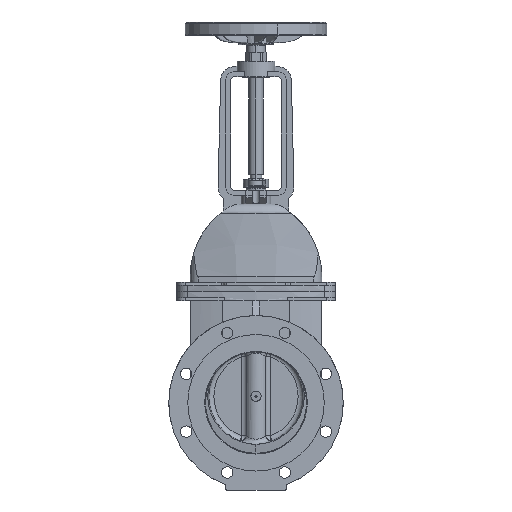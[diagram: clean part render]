
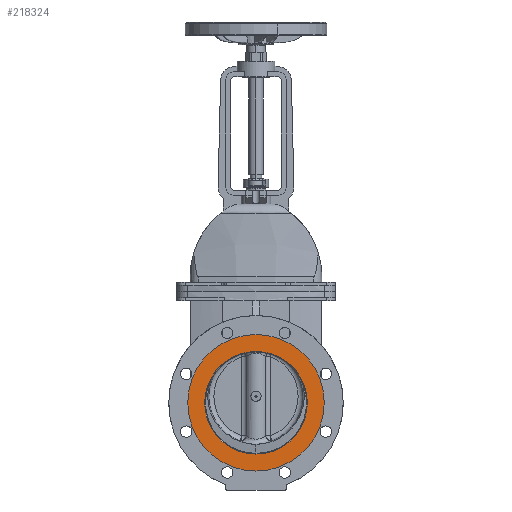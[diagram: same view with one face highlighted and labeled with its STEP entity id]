
A CAD part, left-side view. The second image highlights one B-rep face of the part: STEP entity #218324.
In plain terms, the highlighted planar face has unit normal (-1, 0, 0).
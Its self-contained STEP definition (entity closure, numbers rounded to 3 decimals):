
#198415 = CYLINDRICAL_SURFACE('',#198416,101.5);
#198416 = AXIS2_PLACEMENT_3D('',#198417,#198418,#198419);
#198417 = CARTESIAN_POINT('',(1637.564,28.548,
    -150.348));
#198418 = DIRECTION('',(-1.,0.,0.));
#198419 = DIRECTION('',(0.,0.,1.));
#200163 = VERTEX_POINT('',#200164);
#200164 = CARTESIAN_POINT('',(1622.564,28.548,
    -48.848));
#200178 = CYLINDRICAL_SURFACE('',#200179,101.5);
#200179 = AXIS2_PLACEMENT_3D('',#200180,#200181,#200182);
#200180 = CARTESIAN_POINT('',(1637.564,28.548,
    -150.348));
#200181 = DIRECTION('',(-1.,0.,0.));
#200182 = DIRECTION('',(0.,0.,1.));
#200190 = EDGE_CURVE('',#200191,#200163,#200193,.T.);
#200191 = VERTEX_POINT('',#200192);
#200192 = CARTESIAN_POINT('',(1622.564,28.548,
    -251.848));
#200193 = SURFACE_CURVE('',#200194,(#200199,#200206),.PCURVE_S1.);
#200194 = CIRCLE('',#200195,101.5);
#200195 = AXIS2_PLACEMENT_3D('',#200196,#200197,#200198);
#200196 = CARTESIAN_POINT('',(1622.564,28.548,
    -150.348));
#200197 = DIRECTION('',(-1.,0.,0.));
#200198 = DIRECTION('',(0.,0.,1.));
#200199 = PCURVE('',#198415,#200200);
#200200 = DEFINITIONAL_REPRESENTATION('',(#200201),#200205);
#200201 = LINE('',#200202,#200203);
#200202 = CARTESIAN_POINT('',(0.,15.));
#200203 = VECTOR('',#200204,1.);
#200204 = DIRECTION('',(1.,0.));
#200205 = ( GEOMETRIC_REPRESENTATION_CONTEXT(2) 
PARAMETRIC_REPRESENTATION_CONTEXT() REPRESENTATION_CONTEXT('2D SPACE',''
  ) );
#200206 = PCURVE('',#200207,#200212);
#200207 = PLANE('',#200208);
#200208 = AXIS2_PLACEMENT_3D('',#200209,#200210,#200211);
#200209 = CARTESIAN_POINT('',(1622.564,28.548,
    -150.348));
#200210 = DIRECTION('',(1.,0.,0.));
#200211 = DIRECTION('',(0.,0.,-1.));
#200212 = DEFINITIONAL_REPRESENTATION('',(#200213),#200221);
#200213 = ( BOUNDED_CURVE() B_SPLINE_CURVE(2,(#200214,#200215,#200216,
    #200217,#200218,#200219,#200220),.UNSPECIFIED.,.T.,.F.) 
B_SPLINE_CURVE_WITH_KNOTS((1,2,2,2,2,1),(-2.094,0.,
    2.094,4.189,6.283,8.378),
.UNSPECIFIED.) CURVE() GEOMETRIC_REPRESENTATION_ITEM() 
RATIONAL_B_SPLINE_CURVE((1.,0.5,1.,0.5,1.,0.5,1.)) REPRESENTATION_ITEM(
  '') );
#200214 = CARTESIAN_POINT('',(-101.5,0.));
#200215 = CARTESIAN_POINT('',(-101.5,175.803));
#200216 = CARTESIAN_POINT('',(50.75,87.902));
#200217 = CARTESIAN_POINT('',(203.,0.));
#200218 = CARTESIAN_POINT('',(50.75,-87.902));
#200219 = CARTESIAN_POINT('',(-101.5,-175.803));
#200220 = CARTESIAN_POINT('',(-101.5,0.));
#200221 = ( GEOMETRIC_REPRESENTATION_CONTEXT(2) 
PARAMETRIC_REPRESENTATION_CONTEXT() REPRESENTATION_CONTEXT('2D SPACE',''
  ) );
#200260 = CYLINDRICAL_SURFACE('',#200261,135.);
#200261 = AXIS2_PLACEMENT_3D('',#200262,#200263,#200264);
#200262 = CARTESIAN_POINT('',(1624.564,28.548,
    -150.348));
#200263 = DIRECTION('',(-1.,0.,0.));
#200264 = DIRECTION('',(0.,0.,1.));
#200285 = VERTEX_POINT('',#200286);
#200286 = CARTESIAN_POINT('',(1622.564,28.548,
    -285.348));
#200300 = CYLINDRICAL_SURFACE('',#200301,135.);
#200301 = AXIS2_PLACEMENT_3D('',#200302,#200303,#200304);
#200302 = CARTESIAN_POINT('',(1624.564,28.548,
    -150.348));
#200303 = DIRECTION('',(-1.,0.,0.));
#200304 = DIRECTION('',(0.,0.,1.));
#200312 = EDGE_CURVE('',#200313,#200285,#200315,.T.);
#200313 = VERTEX_POINT('',#200314);
#200314 = CARTESIAN_POINT('',(1622.564,28.548,
    -15.348));
#200315 = SURFACE_CURVE('',#200316,(#200321,#200328),.PCURVE_S1.);
#200316 = CIRCLE('',#200317,135.);
#200317 = AXIS2_PLACEMENT_3D('',#200318,#200319,#200320);
#200318 = CARTESIAN_POINT('',(1622.564,28.548,
    -150.348));
#200319 = DIRECTION('',(-1.,0.,0.));
#200320 = DIRECTION('',(0.,0.,1.));
#200321 = PCURVE('',#200260,#200322);
#200322 = DEFINITIONAL_REPRESENTATION('',(#200323),#200327);
#200323 = LINE('',#200324,#200325);
#200324 = CARTESIAN_POINT('',(0.,2.));
#200325 = VECTOR('',#200326,1.);
#200326 = DIRECTION('',(1.,0.));
#200327 = ( GEOMETRIC_REPRESENTATION_CONTEXT(2) 
PARAMETRIC_REPRESENTATION_CONTEXT() REPRESENTATION_CONTEXT('2D SPACE',''
  ) );
#200328 = PCURVE('',#200207,#200329);
#200329 = DEFINITIONAL_REPRESENTATION('',(#200330),#200338);
#200330 = ( BOUNDED_CURVE() B_SPLINE_CURVE(2,(#200331,#200332,#200333,
    #200334,#200335,#200336,#200337),.UNSPECIFIED.,.T.,.F.) 
B_SPLINE_CURVE_WITH_KNOTS((1,2,2,2,2,1),(-2.094,0.,
    2.094,4.189,6.283,8.378),
.UNSPECIFIED.) CURVE() GEOMETRIC_REPRESENTATION_ITEM() 
RATIONAL_B_SPLINE_CURVE((1.,0.5,1.,0.5,1.,0.5,1.)) REPRESENTATION_ITEM(
  '') );
#200331 = CARTESIAN_POINT('',(-135.,0.));
#200332 = CARTESIAN_POINT('',(-135.,233.827));
#200333 = CARTESIAN_POINT('',(67.5,116.913));
#200334 = CARTESIAN_POINT('',(270.,0.));
#200335 = CARTESIAN_POINT('',(67.5,-116.913));
#200336 = CARTESIAN_POINT('',(-135.,-233.827));
#200337 = CARTESIAN_POINT('',(-135.,0.));
#200338 = ( GEOMETRIC_REPRESENTATION_CONTEXT(2) 
PARAMETRIC_REPRESENTATION_CONTEXT() REPRESENTATION_CONTEXT('2D SPACE',''
  ) );
#218195 = EDGE_CURVE('',#200285,#200313,#218196,.T.);
#218196 = SURFACE_CURVE('',#218197,(#218202,#218209),.PCURVE_S1.);
#218197 = CIRCLE('',#218198,135.);
#218198 = AXIS2_PLACEMENT_3D('',#218199,#218200,#218201);
#218199 = CARTESIAN_POINT('',(1622.564,28.548,
    -150.348));
#218200 = DIRECTION('',(-1.,0.,0.));
#218201 = DIRECTION('',(0.,0.,1.));
#218202 = PCURVE('',#200300,#218203);
#218203 = DEFINITIONAL_REPRESENTATION('',(#218204),#218208);
#218204 = LINE('',#218205,#218206);
#218205 = CARTESIAN_POINT('',(0.,2.));
#218206 = VECTOR('',#218207,1.);
#218207 = DIRECTION('',(1.,0.));
#218208 = ( GEOMETRIC_REPRESENTATION_CONTEXT(2) 
PARAMETRIC_REPRESENTATION_CONTEXT() REPRESENTATION_CONTEXT('2D SPACE',''
  ) );
#218209 = PCURVE('',#200207,#218210);
#218210 = DEFINITIONAL_REPRESENTATION('',(#218211),#218219);
#218211 = ( BOUNDED_CURVE() B_SPLINE_CURVE(2,(#218212,#218213,#218214,
    #218215,#218216,#218217,#218218),.UNSPECIFIED.,.T.,.F.) 
B_SPLINE_CURVE_WITH_KNOTS((1,2,2,2,2,1),(-2.094,0.,
    2.094,4.189,6.283,8.378),
.UNSPECIFIED.) CURVE() GEOMETRIC_REPRESENTATION_ITEM() 
RATIONAL_B_SPLINE_CURVE((1.,0.5,1.,0.5,1.,0.5,1.)) REPRESENTATION_ITEM(
  '') );
#218212 = CARTESIAN_POINT('',(-135.,0.));
#218213 = CARTESIAN_POINT('',(-135.,233.827));
#218214 = CARTESIAN_POINT('',(67.5,116.913));
#218215 = CARTESIAN_POINT('',(270.,0.));
#218216 = CARTESIAN_POINT('',(67.5,-116.913));
#218217 = CARTESIAN_POINT('',(-135.,-233.827));
#218218 = CARTESIAN_POINT('',(-135.,0.));
#218219 = ( GEOMETRIC_REPRESENTATION_CONTEXT(2) 
PARAMETRIC_REPRESENTATION_CONTEXT() REPRESENTATION_CONTEXT('2D SPACE',''
  ) );
#218299 = EDGE_CURVE('',#200163,#200191,#218300,.T.);
#218300 = SURFACE_CURVE('',#218301,(#218306,#218313),.PCURVE_S1.);
#218301 = CIRCLE('',#218302,101.5);
#218302 = AXIS2_PLACEMENT_3D('',#218303,#218304,#218305);
#218303 = CARTESIAN_POINT('',(1622.564,28.548,
    -150.348));
#218304 = DIRECTION('',(-1.,0.,0.));
#218305 = DIRECTION('',(0.,0.,1.));
#218306 = PCURVE('',#200178,#218307);
#218307 = DEFINITIONAL_REPRESENTATION('',(#218308),#218312);
#218308 = LINE('',#218309,#218310);
#218309 = CARTESIAN_POINT('',(0.,15.));
#218310 = VECTOR('',#218311,1.);
#218311 = DIRECTION('',(1.,0.));
#218312 = ( GEOMETRIC_REPRESENTATION_CONTEXT(2) 
PARAMETRIC_REPRESENTATION_CONTEXT() REPRESENTATION_CONTEXT('2D SPACE',''
  ) );
#218313 = PCURVE('',#200207,#218314);
#218314 = DEFINITIONAL_REPRESENTATION('',(#218315),#218323);
#218315 = ( BOUNDED_CURVE() B_SPLINE_CURVE(2,(#218316,#218317,#218318,
    #218319,#218320,#218321,#218322),.UNSPECIFIED.,.T.,.F.) 
B_SPLINE_CURVE_WITH_KNOTS((1,2,2,2,2,1),(-2.094,0.,
    2.094,4.189,6.283,8.378),
.UNSPECIFIED.) CURVE() GEOMETRIC_REPRESENTATION_ITEM() 
RATIONAL_B_SPLINE_CURVE((1.,0.5,1.,0.5,1.,0.5,1.)) REPRESENTATION_ITEM(
  '') );
#218316 = CARTESIAN_POINT('',(-101.5,0.));
#218317 = CARTESIAN_POINT('',(-101.5,175.803));
#218318 = CARTESIAN_POINT('',(50.75,87.902));
#218319 = CARTESIAN_POINT('',(203.,0.));
#218320 = CARTESIAN_POINT('',(50.75,-87.902));
#218321 = CARTESIAN_POINT('',(-101.5,-175.803));
#218322 = CARTESIAN_POINT('',(-101.5,0.));
#218323 = ( GEOMETRIC_REPRESENTATION_CONTEXT(2) 
PARAMETRIC_REPRESENTATION_CONTEXT() REPRESENTATION_CONTEXT('2D SPACE',''
  ) );
#218324 = ADVANCED_FACE('',(#218325,#218329),#200207,.F.);
#218325 = FACE_BOUND('',#218326,.T.);
#218326 = EDGE_LOOP('',(#218327,#218328));
#218327 = ORIENTED_EDGE('',*,*,#218299,.F.);
#218328 = ORIENTED_EDGE('',*,*,#200190,.F.);
#218329 = FACE_BOUND('',#218330,.T.);
#218330 = EDGE_LOOP('',(#218331,#218332));
#218331 = ORIENTED_EDGE('',*,*,#200312,.T.);
#218332 = ORIENTED_EDGE('',*,*,#218195,.T.);
